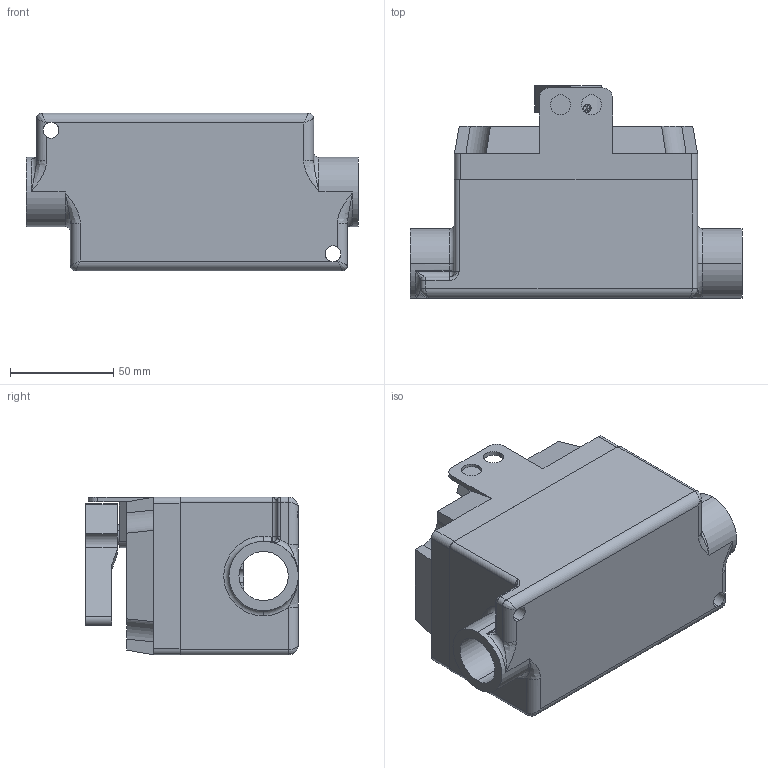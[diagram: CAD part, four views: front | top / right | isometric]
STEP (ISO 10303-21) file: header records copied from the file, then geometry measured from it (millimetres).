
FILE_DESCRIPTION (( 'STEP AP203' ), '1' );
FILE_NAME ('EPS-25A.STEP', '2017-03-23T18:26:47', ( '' ), ( '' ), 'SwSTEP 2.0', 'SolidWorks 2016', '' );
FILE_SCHEMA (( 'CONFIG_CONTROL_DESIGN' ));
Length unit declared in the file: inch
Products named in the file (1): EPS-25A
Bounding box: 160.4 x 102.7 x 76.2 mm (x, y, z)
Volume: 470787.9 mm3; surface area: 121600.9 mm2
Topology: 15 solids, 15 shells, 489 faces, 1275 edges, 801 vertices
Faces by surface type: plane 232, cylinder 178, cone 36, torus 20, bspline 18, sphere 5
Entity records: 16154 total; most frequent: CARTESIAN_POINT 4031, DIRECTION 2554, ORIENTED_EDGE 2498, EDGE_CURVE 1249, AXIS2_PLACEMENT_3D 908, VERTEX_POINT 801, LINE 738, VECTOR 738
